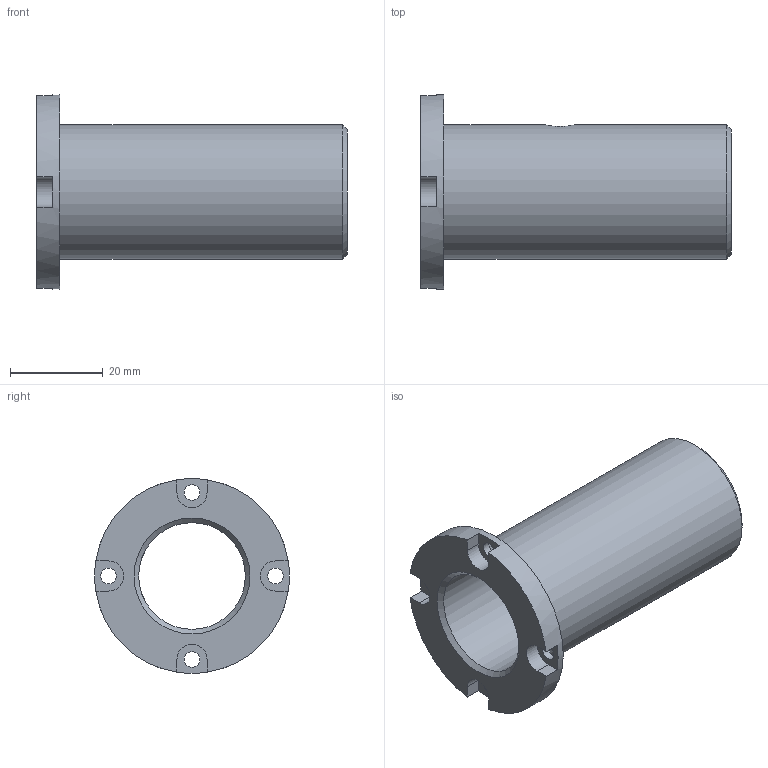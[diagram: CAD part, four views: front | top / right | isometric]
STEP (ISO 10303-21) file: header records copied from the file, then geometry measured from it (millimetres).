
FILE_DESCRIPTION(/* description */ (''),/* implementation_level */ '2;1');
FILE_NAME(/* name */ '',/* time_stamp */ '2026-08-27T17:05:02+09:00',/* author */ ('jhkim'),/* organization */ (''),/* preprocessor_version */ 'ST-DEVELOPER v20.1',/* originating_system */ 'Autodesk Inventor 2027',/* authorisation */ '');
FILE_SCHEMA (('AUTOMOTIVE_DESIGN { 1 0 10303 214 3 1 1 }'));
Length unit declared in the file: millimetre
Products named in the file (1): 가이드 부시
Bounding box: 67 x 42 x 42 mm (x, y, z)
Volume: 19315.9 mm3; surface area: 13108.6 mm2
Topology: 1 solids, 1 shells, 29 faces, 82 edges, 55 vertices
Faces by surface type: plane 15, cylinder 12, cone 2
Full cylindrical faces by diameter (mm): 3.4 x4, 6.6 x1, 23 x1, 29 x1, 42 x1
Entity records: 1084 total; most frequent: CARTESIAN_POINT 236, DIRECTION 171, ORIENTED_EDGE 164, EDGE_CURVE 82, AXIS2_PLACEMENT_3D 64, VERTEX_POINT 55, LINE 43, VECTOR 43
